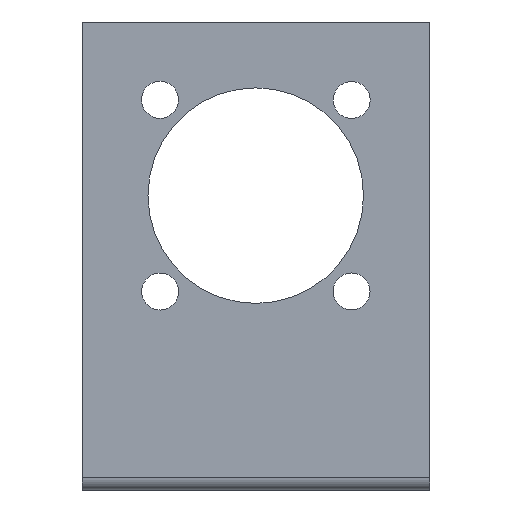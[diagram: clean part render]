
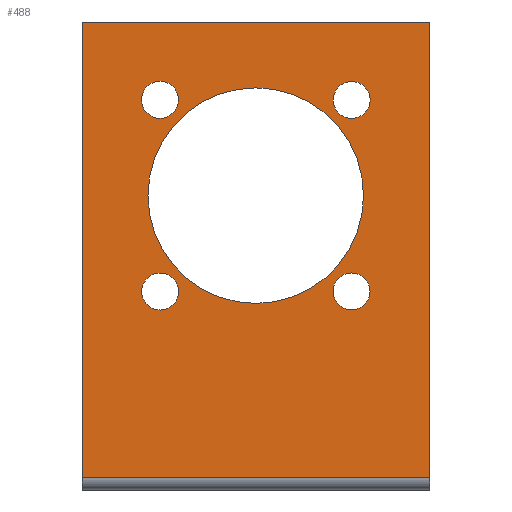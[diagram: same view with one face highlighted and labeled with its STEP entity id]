
A CAD part, left-side view. The second image highlights one B-rep face of the part: STEP entity #488.
In plain terms, the highlighted planar face has unit normal (-1, 0, 0).
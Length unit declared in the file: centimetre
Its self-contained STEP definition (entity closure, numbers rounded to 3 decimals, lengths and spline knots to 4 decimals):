
#110=VECTOR('',#588,1.);
#111=VECTOR('',#589,1.);
#112=VECTOR('',#590,1.);
#113=VECTOR('',#591,1.);
#114=VECTOR('',#592,1.);
#115=VECTOR('',#593,1.);
#135=LINE('',#696,#110);
#136=LINE('',#699,#111);
#137=LINE('',#701,#112);
#138=LINE('',#703,#113);
#139=LINE('',#705,#114);
#140=LINE('',#707,#115);
#155=PLANE('',#520);
#164=VERTEX_POINT('',#659);
#166=VERTEX_POINT('',#664);
#168=VERTEX_POINT('',#669);
#170=VERTEX_POINT('',#674);
#172=VERTEX_POINT('',#679);
#180=VERTEX_POINT('',#697);
#181=VERTEX_POINT('',#698);
#182=VERTEX_POINT('',#700);
#183=VERTEX_POINT('',#702);
#184=VERTEX_POINT('',#704);
#185=VERTEX_POINT('',#706);
#204=CIRCLE('',#505,0.15);
#206=CIRCLE('',#508,0.15);
#208=CIRCLE('',#511,0.15);
#210=CIRCLE('',#514,0.15);
#212=CIRCLE('',#517,0.875);
#228=EDGE_CURVE('',#164,#164,#204,.T.);
#230=EDGE_CURVE('',#166,#166,#206,.T.);
#232=EDGE_CURVE('',#168,#168,#208,.T.);
#234=EDGE_CURVE('',#170,#170,#210,.T.);
#236=EDGE_CURVE('',#172,#172,#212,.T.);
#244=EDGE_CURVE('',#180,#181,#135,.T.);
#245=EDGE_CURVE('',#180,#182,#136,.T.);
#246=EDGE_CURVE('',#182,#183,#137,.T.);
#247=EDGE_CURVE('',#184,#183,#138,.T.);
#248=EDGE_CURVE('',#184,#185,#139,.T.);
#249=EDGE_CURVE('',#181,#185,#140,.T.);
#299=ORIENTED_EDGE('',*,*,#228,.T.);
#300=ORIENTED_EDGE('',*,*,#230,.T.);
#301=ORIENTED_EDGE('',*,*,#232,.T.);
#302=ORIENTED_EDGE('',*,*,#234,.T.);
#303=ORIENTED_EDGE('',*,*,#236,.T.);
#304=ORIENTED_EDGE('',*,*,#244,.F.);
#305=ORIENTED_EDGE('',*,*,#245,.T.);
#306=ORIENTED_EDGE('',*,*,#246,.T.);
#307=ORIENTED_EDGE('',*,*,#247,.F.);
#308=ORIENTED_EDGE('',*,*,#248,.T.);
#309=ORIENTED_EDGE('',*,*,#249,.F.);
#394=EDGE_LOOP('',(#299));
#395=EDGE_LOOP('',(#300));
#396=EDGE_LOOP('',(#301));
#397=EDGE_LOOP('',(#302));
#398=EDGE_LOOP('',(#303));
#399=EDGE_LOOP('',(#304,#305,#306,#307,#308,#309));
#446=FACE_BOUND('',#394,.T.);
#447=FACE_BOUND('',#395,.T.);
#448=FACE_BOUND('',#396,.T.);
#449=FACE_BOUND('',#397,.T.);
#450=FACE_BOUND('',#398,.T.);
#451=FACE_BOUND('',#399,.T.);
#488=ADVANCED_FACE('',(#446,#447,#448,#449,#450,#451),#155,.T.);
#505=AXIS2_PLACEMENT_3D('',#658,#552,#553);
#508=AXIS2_PLACEMENT_3D('',#663,#558,#559);
#511=AXIS2_PLACEMENT_3D('',#668,#564,#565);
#514=AXIS2_PLACEMENT_3D('',#673,#570,#571);
#517=AXIS2_PLACEMENT_3D('',#678,#576,#577);
#520=AXIS2_PLACEMENT_3D('',#695,#587,$);
#552=DIRECTION('',(1.,0.,0.));
#553=DIRECTION('',(0.,0.,0.15));
#558=DIRECTION('',(1.,0.,0.));
#559=DIRECTION('',(0.,0.,0.15));
#564=DIRECTION('',(1.,0.,0.));
#565=DIRECTION('',(0.,0.,0.15));
#570=DIRECTION('',(1.,0.,0.));
#571=DIRECTION('',(0.,0.,0.15));
#576=DIRECTION('',(1.,0.,0.));
#577=DIRECTION('',(0.,0.,0.875));
#587=DIRECTION('',(-1.,0.,0.));
#588=DIRECTION('',(0.,1.,0.));
#589=DIRECTION('',(0.,0.,1.));
#590=DIRECTION('',(0.,1.,0.));
#591=DIRECTION('',(0.,0.,1.));
#592=DIRECTION('',(0.,-1.,0.));
#593=DIRECTION('',(0.,0.,1.));
#658=CARTESIAN_POINT('',(0.,2.189,1.6111));
#659=CARTESIAN_POINT('',(0.,2.189,1.4611));
#663=CARTESIAN_POINT('',(0.,0.6344,1.6125));
#664=CARTESIAN_POINT('',(0.,0.6344,1.4625));
#668=CARTESIAN_POINT('',(0.,0.6334,3.1667));
#669=CARTESIAN_POINT('',(0.,0.6334,3.0167));
#673=CARTESIAN_POINT('',(0.,2.19,3.1682));
#674=CARTESIAN_POINT('',(0.,2.19,3.0182));
#678=CARTESIAN_POINT('',(0.,1.4124,2.3901));
#679=CARTESIAN_POINT('',(0.,1.4124,1.5151));
#695=CARTESIAN_POINT('',(0.,1.41,0.));
#696=CARTESIAN_POINT('',(0.,1.41,0.1));
#697=CARTESIAN_POINT('',(0.,0.,0.1));
#698=CARTESIAN_POINT('',(0.,2.82,0.1));
#699=CARTESIAN_POINT('',(0.,0.,0.));
#700=CARTESIAN_POINT('',(0.,0.,3.8));
#701=CARTESIAN_POINT('',(0.,2.821,3.8));
#702=CARTESIAN_POINT('',(0.,2.821,3.8));
#703=CARTESIAN_POINT('',(0.,2.821,0.3));
#704=CARTESIAN_POINT('',(0.,2.821,0.3));
#705=CARTESIAN_POINT('',(0.,2.821,0.3));
#706=CARTESIAN_POINT('',(0.,2.82,0.3));
#707=CARTESIAN_POINT('',(0.,2.82,0.));
